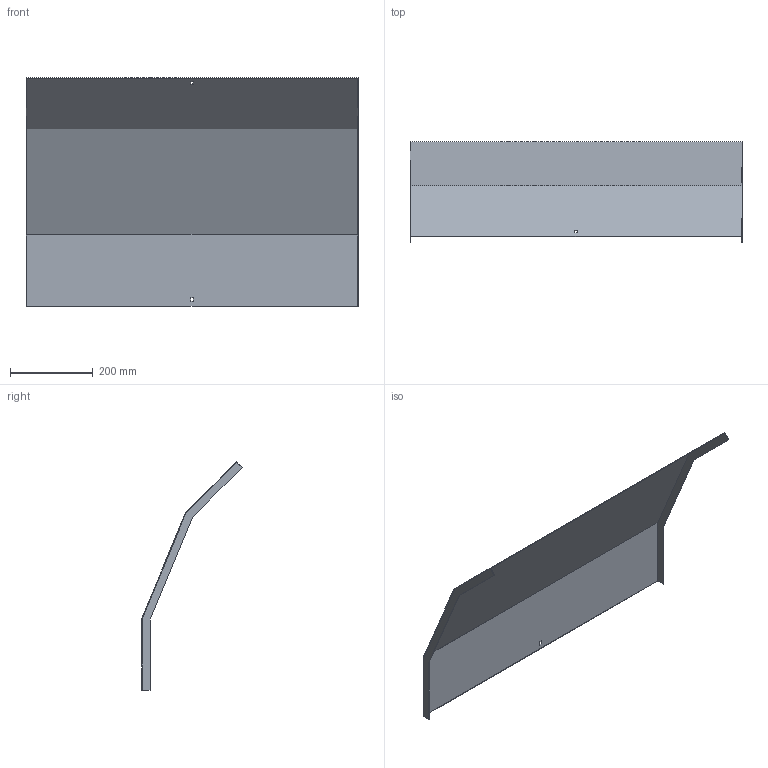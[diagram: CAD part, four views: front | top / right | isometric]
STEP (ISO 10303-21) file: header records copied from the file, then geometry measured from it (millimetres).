
FILE_DESCRIPTION (( 'STEP AP214' ), '1' );
FILE_NAME ('A2_34N3D800.step', '2025-02-21T10:35:06', ( '' ), ( '' ), 'SwSTEP 2.0', 'SolidWorks 2023', '' );
FILE_SCHEMA (( 'AUTOMOTIVE_DESIGN' ));
Length unit declared in the file: millimetre
Products named in the file (1): A2_34N3D800
Bounding box: 803 x 243.15 x 552.87 mm (x, y, z)
Volume: 786021.4 mm3; surface area: 1052470.3 mm2
Topology: 1 solids, 1 shells, 26 faces, 72 edges, 48 vertices
Faces by surface type: plane 26
Entity records: 847 total; most frequent: CARTESIAN_POINT 147, ORIENTED_EDGE 144, DIRECTION 126, EDGE_CURVE 72, VECTOR 72, LINE 72, VERTEX_POINT 48, EDGE_LOOP 30
